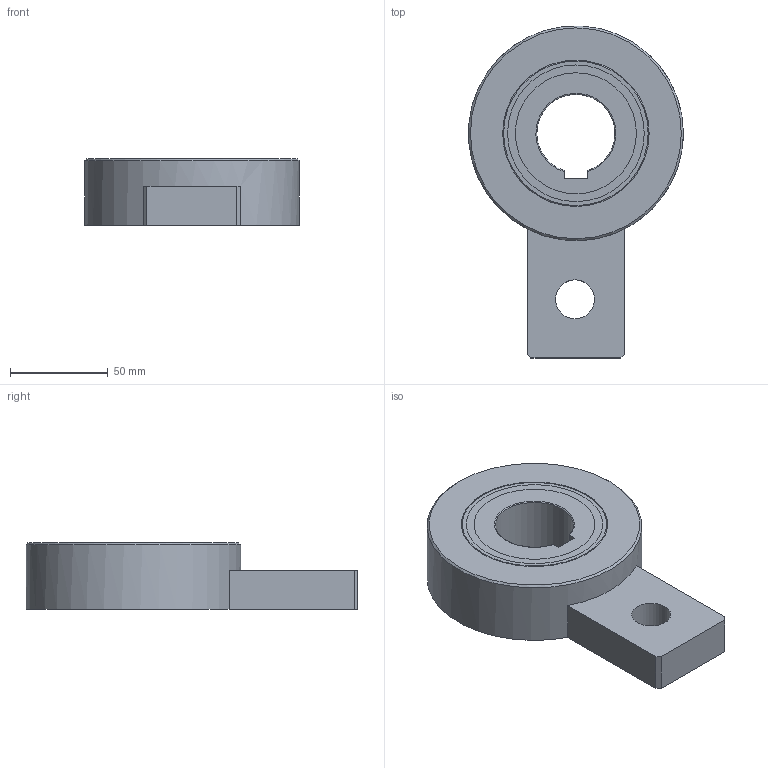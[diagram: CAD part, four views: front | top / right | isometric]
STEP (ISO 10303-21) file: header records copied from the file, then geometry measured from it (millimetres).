
FILE_DESCRIPTION(/* description */ (''),/* implementation_level */ '2;1');
FILE_NAME(/* name */ '301056 RA 470 Z.stp',/* time_stamp */ '2016-11-17T10:15:45+01:00',/* author */ (''),/* organization */ (''),/* preprocessor_version */ 'ST-DEVELOPER v15',/* originating_system */ 'SIEMENS PLM Software NX 8.5',/* authorisation */ '');
FILE_SCHEMA (('CONFIG_CONTROL_DESIGN'));
Length unit declared in the file: millimetre
Products named in the file (5): ATE0000080_01; ATE0000091_01; ATE0000094_01; ATE0000092_01_MODELL; ATE0000096_01
Assembly tree (4 placements, depth 3):
  ATE0000096_01
    ATE0000094_01
    ATE0000092_01_MODELL
      ATE0000091_01
      ATE0000080_01
Bounding box: 109.88 x 169.95 x 34 mm (x, y, z)
Volume: 323548.9 mm3; surface area: 87355.9 mm2
Topology: 6 solids, 6 shells, 91 faces, 202 edges, 133 vertices
Faces by surface type: plane 57, cylinder 27, torus 6, cone 1
Full cylindrical faces by diameter (mm): 20 x1, 62 x5, 66 x1, 68 x1, 69 x2, 70 x5, 75 x2, 110 x1
Entity records: 2958 total; most frequent: CARTESIAN_POINT 464, DIRECTION 434, ORIENTED_EDGE 340, AXIS2_PLACEMENT_3D 172, EDGE_CURVE 170, EDGE_LOOP 140, VERTEX_POINT 126, ADVANCED_FACE 91
